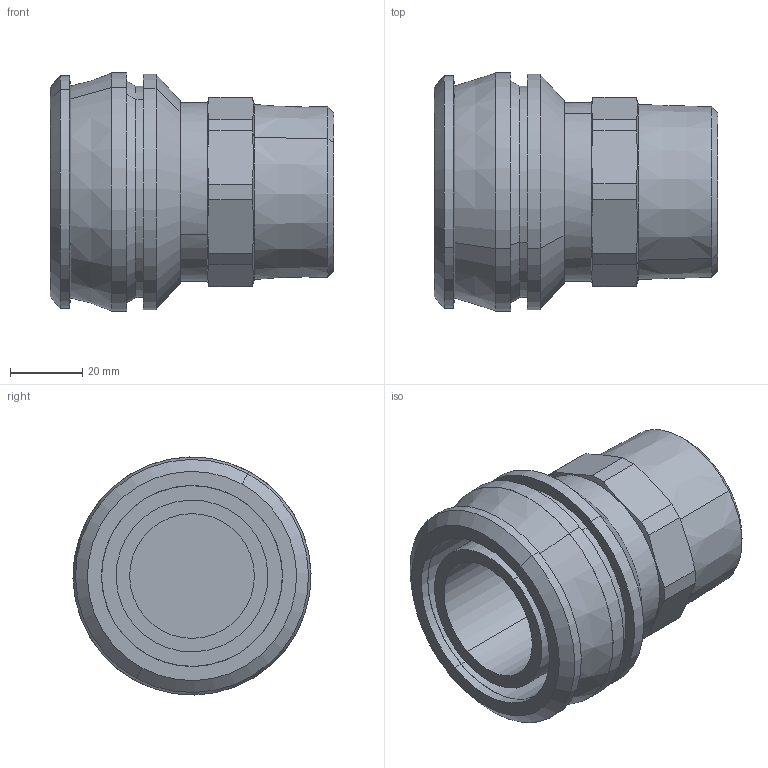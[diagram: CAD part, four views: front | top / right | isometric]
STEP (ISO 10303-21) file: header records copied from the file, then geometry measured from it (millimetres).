
FILE_DESCRIPTION(('STEP AP214'),'1');
FILE_NAME('pim0004686.stp','2015-06-17T08:48:20',('CAD-PIM'),('TransMagic, Inc.'),'TMR11sp0','TransMagic R11',' ');
FILE_SCHEMA(('AUTOMOTIVE_DESIGN'));
Length unit declared in the file: millimetre
Products named in the file (1): pim0004686
Bounding box: 78.5 x 65.86 x 65.86 mm (x, y, z)
Volume: 148501.7 mm3; surface area: 30947.9 mm2
Topology: 1 solids, 1 shells, 77 faces, 216 edges, 147 vertices
Faces by surface type: cylinder 24, bspline 20, plane 19, cone 14
Entity records: 4153 total; most frequent: CARTESIAN_POINT 1672, ORIENTED_EDGE 428, DIRECTION 326, EDGE_CURVE 214, VERTEX_POINT 147, AXIS2_PLACEMENT_3D 138, EDGE_LOOP 85, B_SPLINE_CURVE_WITH_KNOTS 84
